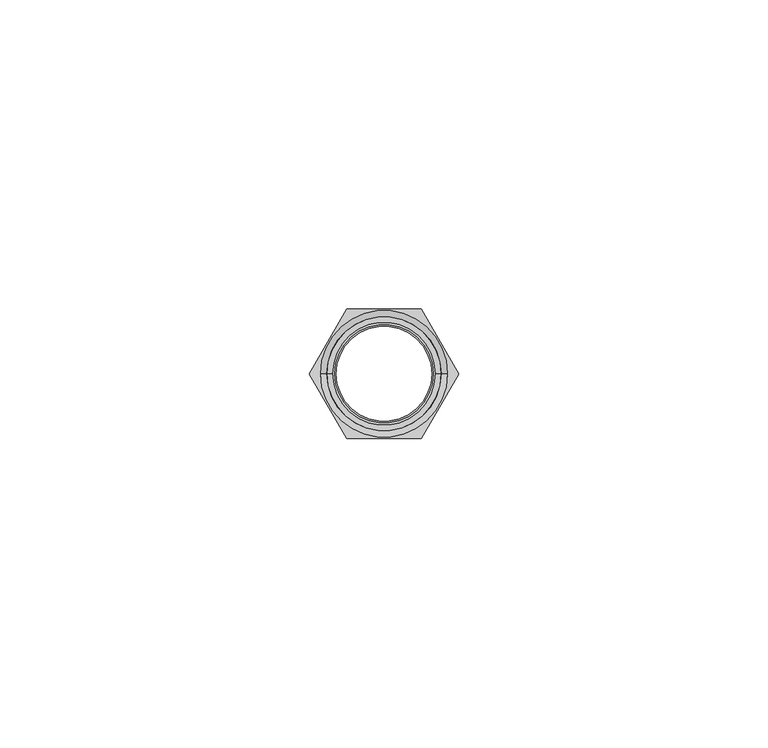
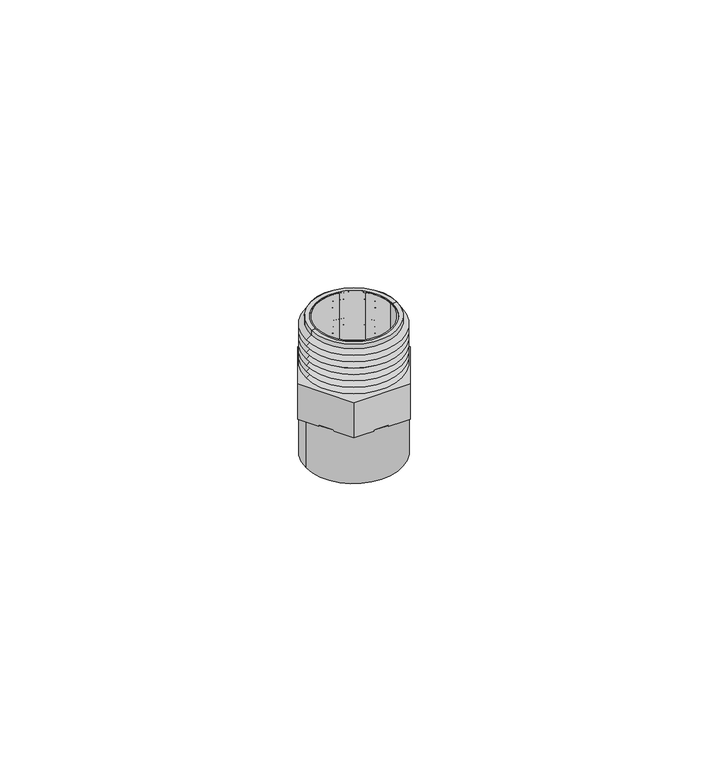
"""IFC4 building model written with IfcOpenShell, lengths in millimetres: valve geometry, Adaptador Macho_Lubrizol_CPVC_FlowGuard_MX 13mm : Adaptador Macho_Lubrizol_CPVC_FlowGuard_MX 13mm."""

import ifcopenshell
import ifcopenshell.guid

model = None  # the IFC model being written
_history = None  # IfcOwnerHistory: only IFC2X3 demands one
_inside = {}  # id of a spatial element -> (the spatial element, [elements in it])
_under = {}  # id of a project, library or spatial element -> (it, [spatial elements below it])
_declared = {}  # id of a project -> (the project, [libraries it declares])
_typed = {}  # id of a type object -> (the type object, [elements of that type])
_made_of = {}  # id of a material, layer set ... -> (it, [elements and type objects made of it])


def new_model(schema):
    """Start an empty IFC model of exactly this schema.

    Asked for "IFC4X3", IfcOpenShell would pick the latest addendum, in which some entities
    have other attributes; the version numbers below select the first issue.
    IFC2X3 requires an IfcOwnerHistory on every rooted entity: one is made here for all.
    """
    global model, _history
    if schema == "IFC4X3":
        model = ifcopenshell.file(schema_version=(4, 3, 0, 0))
    else:
        model = ifcopenshell.file(schema=schema)
    _inside.clear()
    _under.clear()
    _declared.clear()
    _typed.clear()
    _made_of.clear()
    _history = None
    if model.schema == "IFC2X3":
        org = make("IfcOrganization", Name="unknown")
        user = make(
            "IfcPersonAndOrganization",
            ThePerson=make("IfcPerson", FamilyName="unknown"),
            TheOrganization=org,
        )
        app = make(
            "IfcApplication",
            ApplicationDeveloper=org,
            Version="unknown",
            ApplicationFullName="unknown",
            ApplicationIdentifier="unknown",
        )
        _history = make(
            "IfcOwnerHistory",
            OwningUser=user,
            OwningApplication=app,
            ChangeAction="ADDED",
            CreationDate=0,
        )
    return model


def make(cls, **values):
    """One entity of the class cls with the attributes given. An attribute that is None is left unset."""
    return model.create_entity(
        cls, **{name: value for name, value in values.items() if value is not None}
    )


def rooted(cls, **values):
    """An entity with a GlobalId (a new one), such as an element, a storey or a relation."""
    return make(cls, GlobalId=ifcopenshell.guid.new(), OwnerHistory=_history, **values)


def si_unit(unit_type, name, prefix=None):
    """IfcSIUnit, for example si_unit("LENGTHUNIT", "METRE", prefix="MILLI")."""
    return make("IfcSIUnit", UnitType=unit_type, Prefix=prefix, Name=name)


def assignment(units):
    """IfcUnitAssignment: the units of a project."""
    return None if units is None else make("IfcUnitAssignment", Units=units)


def point(xyz):
    """IfcCartesianPoint."""
    return None if xyz is None else make("IfcCartesianPoint", Coordinates=xyz)


def direction(xyz):
    """IfcDirection."""
    return None if xyz is None else make("IfcDirection", DirectionRatios=xyz)


def frame(location, z_axis=None, x_axis=None):
    """IfcAxis2Placement3D, a coordinate frame: its origin and axes. An axis left out is left unset."""
    return make(
        "IfcAxis2Placement3D",
        Location=point(location),
        Axis=direction(z_axis),
        RefDirection=direction(x_axis),
    )


def frame_2d(location, x_axis=None):
    """IfcAxis2Placement2D, a coordinate frame in the plane: its origin and x axis."""
    return make(
        "IfcAxis2Placement2D", Location=point(location), RefDirection=direction(x_axis)
    )


def origin():
    """The frame at (0, 0, 0) with its axes left unset."""
    return frame((0.0, 0.0, 0.0))


def origin_with_axes():
    """The frame at (0, 0, 0) with the z axis (0, 0, 1) and the x axis (1, 0, 0) written out."""
    return frame((0.0, 0.0, 0.0), z_axis=(0.0, 0.0, 1.0), x_axis=(1.0, 0.0, 0.0))


def origin_2d():
    """The frame at (0, 0) in the plane with its x axis left unset."""
    return frame_2d((0.0, 0.0))


def place(relative_to, where):
    """IfcLocalPlacement: puts the frame where relative to a parent placement (None: the world)."""
    return make(
        "IfcLocalPlacement", PlacementRelTo=relative_to, RelativePlacement=where
    )


def context(
    kind, dimensions, precision=None, world=None, true_north=None, identifier=None
):
    """IfcGeometricRepresentationContext, for example the 3D "Model" context."""
    return make(
        "IfcGeometricRepresentationContext",
        ContextIdentifier=identifier,
        ContextType=kind,
        CoordinateSpaceDimension=dimensions,
        Precision=precision,
        WorldCoordinateSystem=world,
        TrueNorth=true_north,
    )


def project(units=None, contexts=None):
    """IfcProject with its units and contexts."""
    return rooted(
        "IfcProject",
        Name="project",
        RepresentationContexts=contexts,
        UnitsInContext=assignment(units),
    )


def spatial(cls, under=None, at=None, **own):
    """A site, building, storey or space (cls), placed at a placement, below another one or the project."""
    s = rooted(cls, ObjectPlacement=at, **own)
    if under is not None:
        _under.setdefault(under.id(), (under, []))[1].append(s)
    return s


def polyline(points):
    """IfcPolyline through the points."""
    return make("IfcPolyline", Points=[point(p) for p in points])


def circle_curve(where, radius):
    """IfcCircle in the frame where."""
    return make("IfcCircle", Position=where, Radius=radius)


def trimmed(basis, trim1, trim2, sense, master):
    """IfcTrimmedCurve: the piece of a basis curve between two trims."""
    return make(
        "IfcTrimmedCurve",
        BasisCurve=basis,
        Trim1=trim1,
        Trim2=trim2,
        SenseAgreement=sense,
        MasterRepresentation=master,
    )


def segment(curve, same_sense, transition):
    """IfcCompositeCurveSegment."""
    return make(
        "IfcCompositeCurveSegment",
        Transition=transition,
        SameSense=same_sense,
        ParentCurve=curve,
    )


def composite_curve(segments, self_intersect=None):
    """IfcCompositeCurve: segments joined end to end."""
    return make("IfcCompositeCurve", Segments=segments, SelfIntersect=self_intersect)


def outline(outer, holes=None, kind="AREA"):
    """IfcArbitraryClosedProfileDef: a profile drawn as a closed curve; with holes, ...WithVoids."""
    if holes is None:
        return make("IfcArbitraryClosedProfileDef", ProfileType=kind, OuterCurve=outer)
    return make(
        "IfcArbitraryProfileDefWithVoids",
        ProfileType=kind,
        OuterCurve=outer,
        InnerCurves=holes,
    )


def extrude(swept, where, along, depth):
    """IfcExtrudedAreaSolid: the profile swept, set in the frame where, extruded along a direction by depth."""
    return make(
        "IfcExtrudedAreaSolid",
        SweptArea=swept,
        Position=where,
        ExtrudedDirection=direction(along),
        Depth=depth,
    )


def shape(context_of_items, identifier, shape_type, items):
    """IfcShapeRepresentation: the items that make up one representation, for example the "Body"."""
    return make(
        "IfcShapeRepresentation",
        ContextOfItems=context_of_items,
        RepresentationIdentifier=identifier,
        RepresentationType=shape_type,
        Items=items,
    )


def source(mapping_origin, context_of_items, identifier, shape_type, items):
    """IfcRepresentationMap: a shape defined once, which mapped items show again and again."""
    return make(
        "IfcRepresentationMap",
        MappingOrigin=mapping_origin,
        MappedRepresentation=shape(context_of_items, identifier, shape_type, items),
    )


def transform(
    local_origin,
    x_axis=None,
    y_axis=None,
    z_axis=None,
    scale=None,
    scale2=None,
    scale3=None,
    uniform=True,
):
    """IfcCartesianTransformationOperator3D, or its non-uniform kind. x_axis, y_axis, z_axis: its Axis1, 2, 3."""
    if uniform:
        return make(
            "IfcCartesianTransformationOperator3D",
            Axis1=direction(x_axis),
            Axis2=direction(y_axis),
            LocalOrigin=point(local_origin),
            Scale=scale,
            Axis3=direction(z_axis),
        )
    return make(
        "IfcCartesianTransformationOperator3DnonUniform",
        Axis1=direction(x_axis),
        Axis2=direction(y_axis),
        LocalOrigin=point(local_origin),
        Scale=scale,
        Axis3=direction(z_axis),
        Scale2=scale2,
        Scale3=scale3,
    )


def mapped(mapping_source, mapping_target):
    """IfcMappedItem: shows the shape of a source again, moved by a transform."""
    return make(
        "IfcMappedItem", MappingSource=mapping_source, MappingTarget=mapping_target
    )


def made_of(thing, what):
    """Note that an element or type object is made of a material, layer set ...; save() writes the relation."""
    if what is not None:
        _made_of.setdefault(what.id(), (what, []))[1].append(thing)
    return thing


def element(
    cls,
    number,
    at=None,
    inside=None,
    cuts=None,
    type_object=None,
    material=None,
    context=None,
    identifier="Body",
    shape_type=None,
    held_by="IfcProductDefinitionShape",
    body=None,
    shapes=None,
    **own,
):
    """One element of the class cls, such as IfcWall. Its Tag is "e" and its number.

    at: its placement. inside: the storey or other place that contains it. cuts: it is an
    opening in that element (IfcRelVoidsElement). A single representation is given by context,
    identifier, shape_type and body (its items); several are given by shapes. held_by: the class
    of the entity that holds the representations. save() writes the other relations.
    """
    e = rooted(cls, Tag="e%d" % number, ObjectPlacement=at, **own)
    if body is not None:
        shapes = [shape(context, identifier, shape_type, body)]
    if shapes is not None:
        e.Representation = make(held_by, Representations=shapes)
    if inside is not None:
        _inside.setdefault(inside.id(), (inside, []))[1].append(e)
    if cuts is not None:
        rooted(
            "IfcRelVoidsElement", RelatingBuildingElement=cuts, RelatedOpeningElement=e
        )
    if type_object is not None:
        _typed.setdefault(type_object.id(), (type_object, []))[1].append(e)
    return made_of(e, material)


def aggregate(whole, parts):
    """IfcRelAggregates: a whole, such as a stair, and the parts it consists of."""
    return rooted("IfcRelAggregates", RelatingObject=whole, RelatedObjects=parts)


def save(model, path):
    """Write the relations noted so far, then the file.

    IfcRelAggregates (storeys below a building ...), IfcRelContainedInSpatialStructure (elements
    in a storey), IfcRelDefinesByType, IfcRelAssociatesMaterial and IfcRelDeclares: one each for
    every whole, place, type object, material and project.
    """
    for whole, parts in _under.values():
        aggregate(whole, parts)
    for where, things in _inside.values():
        rooted(
            "IfcRelContainedInSpatialStructure",
            RelatedElements=things,
            RelatingStructure=where,
        )
    for kind, things in _typed.values():
        rooted("IfcRelDefinesByType", RelatedObjects=things, RelatingType=kind)
    for what, things in _made_of.values():
        rooted("IfcRelAssociatesMaterial", RelatedObjects=things, RelatingMaterial=what)
    for by, libraries in _declared.values():
        rooted("IfcRelDeclares", RelatingContext=by, RelatedDefinitions=libraries)
    model.write(path)


def plane_surface(at):
    """IfcPlane: the flat surface through the origin of the frame at, square to its z axis."""
    return make("IfcPlane", Position=at)


def cylinder_surface(at, radius):
    """IfcCylindricalSurface: all points at the distance radius from the z axis of the frame at."""
    return make("IfcCylindricalSurface", Position=at, Radius=radius)


def revolved_surface(curve, axis_point, axis_direction):
    """IfcSurfaceOfRevolution: the curve turned about the line through axis_point along axis_direction."""
    return make(
        "IfcSurfaceOfRevolution",
        SweptCurve=make("IfcArbitraryOpenProfileDef", ProfileType="CURVE", Curve=curve),
        AxisPosition=make("IfcAxis1Placement", Location=point(axis_point), Axis=direction(axis_direction)),
    )


def advanced_brep(points, edges, surfaces, faces):
    """IfcAdvancedBrep: a solid bounded by faces that lie on surfaces and meet in shared edges.

    An edge is (start, end): straight between two places in points (the first is 0);
    or (start, end, curve); or (start, end, curve, False) where it runs against its curve.
    A face is (place in surfaces, loops), or (place, loops, False) where it looks against
    its surface's normal. A loop lists edges by number (the first is 1), with a minus sign
    where the edge is run from its end to its start. The first loop is the outer one.
    """
    corners = [point(p) for p in points]
    vertices = [make("IfcVertexPoint", VertexGeometry=c) for c in corners]
    made = []
    for start, end, *more in edges:
        made.append(
            make(
                "IfcEdgeCurve",
                EdgeStart=vertices[start],
                EdgeEnd=vertices[end],
                EdgeGeometry=more[0] if more else make("IfcPolyline", Points=[corners[start], corners[end]]),
                SameSense=more[1] if len(more) > 1 else True,
            )
        )
    hull = []
    for where, loops, *sense in faces:
        bounds = []
        for j, loop in enumerate(loops):
            ring = [make("IfcOrientedEdge", EdgeElement=made[abs(k) - 1], Orientation=k > 0) for k in loop]
            bounds.append(
                make(
                    "IfcFaceOuterBound" if j == 0 else "IfcFaceBound",
                    Bound=make("IfcEdgeLoop", EdgeList=ring),
                    Orientation=True,
                )
            )
        hull.append(make("IfcAdvancedFace", Bounds=bounds, FaceSurface=surfaces[where], SameSense=sense[0] if sense else True))
    return make("IfcAdvancedBrep", Outer=make("IfcClosedShell", CfsFaces=hull))


def valve_ad1eddb8(model_context):
    return source(origin(), model_context, "Body", "SolidModel", [
        advanced_brep(
        [(9.1862873, 0.0, 29.8089284), (-9.1862873, 0.0, 29.8089284), (-9.1862873, 0.0, 30.8), (9.1862873, 0.0, 30.8), (10.25, 0.0, 29.0641088), (-10.25, 0.0, 29.0641088), (9.2157757, 0.0, 28.3399371), (-9.2157757, 0.0, 28.3399371), (10.25, 0.0, 27.6157655), (-10.25, 0.0, 27.6157655), (9.2157757, 0.0, 26.8915939), (-9.2157757, 0.0, 26.8915939), (10.25, 0.0, 26.1674223), (-10.25, 0.0, 26.1674223), (9.2157757, 0.0, 25.4432506), (-9.2157757, 0.0, 25.4432506), (10.25, 0.0, 24.719079), (-10.25, 0.0, 24.719079), (9.2157757, 0.0, 23.9949074), (-9.2157757, 0.0, 23.9949074), (10.25, 0.0, 23.2707358), (-10.25, 0.0, 23.2707358), (9.2157757, 0.0, 22.5465641), (-9.2157757, 0.0, 22.5465641), (10.25, 0.0, 21.8223925), (-10.25, 0.0, 21.8223925), (9.2157757, 0.0, 21.0982209), (-9.2157757, 0.0, 21.0982209), (10.25, 0.0, 20.3740493), (-10.25, 0.0, 20.3740493), (9.2157757, 0.0, 19.6498777), (-9.2157757, 0.0, 19.6498777), (8.3354831, 0.0, 19.6498777), (-8.3354831, 0.0, 19.6498777), (-8.3354831, 0.0, 30.8), (8.3354831, 0.0, 30.8)],
        [
            (0, 1, circle_curve(frame((0.0, 0.0, 29.8089284), z_axis=(0.0, 0.0, 1.0), x_axis=(-1.0, 0.0, 0.0)), 9.1862873)),
            (1, 2),
            (2, 3, circle_curve(frame((0.0, 0.0, 30.8), z_axis=(0.0, 0.0, -1.0), x_axis=(-1.0, 0.0, 0.0)), 9.1862873)),
            (3, 0),
            (1, 0, circle_curve(frame((0.0, 0.0, 29.8089284), z_axis=(0.0, 0.0, 1.0), x_axis=(-1.0, 0.0, 0.0)), 9.1862873)),
            (3, 2, circle_curve(frame((0.0, 0.0, 30.8), z_axis=(0.0, 0.0, -1.0), x_axis=(-1.0, 0.0, 0.0)), 9.1862873)),
            (4, 5, circle_curve(frame((0.0, 0.0, 29.0641088), z_axis=(0.0, 0.0, 1.0), x_axis=(-1.0, 0.0, 0.0)), 10.25)),
            (5, 1),
            (0, 4),
            (5, 4, circle_curve(frame((0.0, 0.0, 29.0641088), z_axis=(0.0, 0.0, 1.0), x_axis=(-1.0, 0.0, 0.0)), 10.25)),
            (6, 7, circle_curve(frame((0.0, 0.0, 28.3399371), z_axis=(0.0, 0.0, 1.0), x_axis=(-1.0, 0.0, 0.0)), 9.2157757)),
            (7, 5),
            (4, 6),
            (7, 6, circle_curve(frame((0.0, 0.0, 28.3399371), z_axis=(0.0, 0.0, 1.0), x_axis=(-1.0, 0.0, 0.0)), 9.2157757)),
            (8, 9, circle_curve(frame((0.0, 0.0, 27.6157655), z_axis=(0.0, 0.0, 1.0), x_axis=(-1.0, 0.0, 0.0)), 10.25)),
            (9, 7),
            (6, 8),
            (9, 8, circle_curve(frame((0.0, 0.0, 27.6157655), z_axis=(0.0, 0.0, 1.0), x_axis=(-1.0, 0.0, 0.0)), 10.25)),
            (10, 11, circle_curve(frame((0.0, 0.0, 26.8915939), z_axis=(0.0, 0.0, 1.0), x_axis=(-1.0, 0.0, 0.0)), 9.2157757)),
            (11, 9),
            (8, 10),
            (11, 10, circle_curve(frame((0.0, 0.0, 26.8915939), z_axis=(0.0, 0.0, 1.0), x_axis=(-1.0, 0.0, 0.0)), 9.2157757)),
            (12, 13, circle_curve(frame((0.0, 0.0, 26.1674223), z_axis=(0.0, 0.0, 1.0), x_axis=(-1.0, 0.0, 0.0)), 10.25)),
            (13, 11),
            (10, 12),
            (13, 12, circle_curve(frame((0.0, 0.0, 26.1674223), z_axis=(0.0, 0.0, 1.0), x_axis=(-1.0, 0.0, 0.0)), 10.25)),
            (14, 15, circle_curve(frame((0.0, 0.0, 25.4432506), z_axis=(0.0, 0.0, 1.0), x_axis=(-1.0, 0.0, 0.0)), 9.2157757)),
            (15, 13),
            (12, 14),
            (15, 14, circle_curve(frame((0.0, 0.0, 25.4432506), z_axis=(0.0, 0.0, 1.0), x_axis=(-1.0, 0.0, 0.0)), 9.2157757)),
            (16, 17, circle_curve(frame((0.0, 0.0, 24.719079), z_axis=(0.0, 0.0, 1.0), x_axis=(-1.0, 0.0, 0.0)), 10.25)),
            (17, 15),
            (14, 16),
            (17, 16, circle_curve(frame((0.0, 0.0, 24.719079), z_axis=(0.0, 0.0, 1.0), x_axis=(-1.0, 0.0, 0.0)), 10.25)),
            (18, 19, circle_curve(frame((0.0, 0.0, 23.9949074), z_axis=(0.0, 0.0, 1.0), x_axis=(-1.0, 0.0, 0.0)), 9.2157757)),
            (19, 17),
            (16, 18),
            (19, 18, circle_curve(frame((0.0, 0.0, 23.9949074), z_axis=(0.0, 0.0, 1.0), x_axis=(-1.0, 0.0, 0.0)), 9.2157757)),
            (20, 21, circle_curve(frame((0.0, 0.0, 23.2707358), z_axis=(0.0, 0.0, 1.0), x_axis=(-1.0, 0.0, 0.0)), 10.25)),
            (21, 19),
            (18, 20),
            (21, 20, circle_curve(frame((0.0, 0.0, 23.2707358), z_axis=(0.0, 0.0, 1.0), x_axis=(-1.0, 0.0, 0.0)), 10.25)),
            (22, 23, circle_curve(frame((0.0, 0.0, 22.5465641), z_axis=(0.0, 0.0, 1.0), x_axis=(-1.0, 0.0, 0.0)), 9.2157757)),
            (23, 21),
            (20, 22),
            (23, 22, circle_curve(frame((0.0, 0.0, 22.5465641), z_axis=(0.0, 0.0, 1.0), x_axis=(-1.0, 0.0, 0.0)), 9.2157757)),
            (24, 25, circle_curve(frame((0.0, 0.0, 21.8223925), z_axis=(0.0, 0.0, 1.0), x_axis=(-1.0, 0.0, 0.0)), 10.25)),
            (25, 23),
            (22, 24),
            (25, 24, circle_curve(frame((0.0, 0.0, 21.8223925), z_axis=(0.0, 0.0, 1.0), x_axis=(-1.0, 0.0, 0.0)), 10.25)),
            (26, 27, circle_curve(frame((0.0, 0.0, 21.0982209), z_axis=(0.0, 0.0, 1.0), x_axis=(-1.0, 0.0, 0.0)), 9.2157757)),
            (27, 25),
            (24, 26),
            (27, 26, circle_curve(frame((0.0, 0.0, 21.0982209), z_axis=(0.0, 0.0, 1.0), x_axis=(-1.0, 0.0, 0.0)), 9.2157757)),
            (28, 29, circle_curve(frame((0.0, 0.0, 20.3740493), z_axis=(0.0, 0.0, 1.0), x_axis=(-1.0, 0.0, 0.0)), 10.25)),
            (29, 27),
            (26, 28),
            (29, 28, circle_curve(frame((0.0, 0.0, 20.3740493), z_axis=(0.0, 0.0, 1.0), x_axis=(-1.0, 0.0, 0.0)), 10.25)),
            (30, 31, circle_curve(frame((0.0, 0.0, 19.6498777), z_axis=(0.0, 0.0, 1.0), x_axis=(-1.0, 0.0, 0.0)), 9.2157757)),
            (31, 29),
            (28, 30),
            (31, 30, circle_curve(frame((0.0, 0.0, 19.6498777), z_axis=(0.0, 0.0, 1.0), x_axis=(-1.0, 0.0, 0.0)), 9.2157757)),
            (32, 33, circle_curve(frame((0.0, 0.0, 19.6498777), z_axis=(0.0, 0.0, 1.0), x_axis=(-1.0, 0.0, 0.0)), 8.3354831)),
            (33, 31),
            (30, 32),
            (33, 32, circle_curve(frame((0.0, 0.0, 19.6498777), z_axis=(0.0, 0.0, 1.0), x_axis=(-1.0, 0.0, 0.0)), 8.3354831)),
            (2, 34),
            (34, 35, circle_curve(frame((0.0, 0.0, 30.8), z_axis=(0.0, 0.0, -1.0), x_axis=(-1.0, 0.0, 0.0)), 8.3354831)),
            (35, 3),
            (35, 34, circle_curve(frame((0.0, 0.0, 30.8), z_axis=(0.0, 0.0, -1.0), x_axis=(-1.0, 0.0, 0.0)), 8.3354831)),
            (34, 33),
            (32, 35),
        ],
        [
            cylinder_surface(frame((0.0, 0.0, 32.7589883), z_axis=(0.0, 0.0, -1.0), x_axis=(-1.0, 0.0, 0.0)), 9.1862873),
            revolved_surface(polyline([(-9.1862873, 0.0, 29.8089284), (-10.25, 0.0, 29.0641088)]), (0.0, 0.0, 32.7589883), (0.0, 0.0, -1.0)),
            revolved_surface(polyline([(-10.25, 0.0, 29.0641088), (-9.2157757, 0.0, 28.3399371)]), (0.0, 0.0, 32.7589883), (0.0, 0.0, -1.0)),
            revolved_surface(polyline([(-9.2157757, 0.0, 28.3399371), (-10.25, 0.0, 27.6157655)]), (0.0, 0.0, 32.7589883), (0.0, 0.0, -1.0)),
            revolved_surface(polyline([(-10.25, 0.0, 27.6157655), (-9.2157757, 0.0, 26.8915939)]), (0.0, 0.0, 32.7589883), (0.0, 0.0, -1.0)),
            revolved_surface(polyline([(-9.2157757, 0.0, 26.8915939), (-10.25, 0.0, 26.1674223)]), (0.0, 0.0, 32.7589883), (0.0, 0.0, -1.0)),
            revolved_surface(polyline([(-10.25, 0.0, 26.1674223), (-9.2157757, 0.0, 25.4432506)]), (0.0, 0.0, 32.7589883), (0.0, 0.0, -1.0)),
            revolved_surface(polyline([(-9.2157757, 0.0, 25.4432506), (-10.25, 0.0, 24.719079)]), (0.0, 0.0, 32.7589883), (0.0, 0.0, -1.0)),
            revolved_surface(polyline([(-10.25, 0.0, 24.719079), (-9.2157757, 0.0, 23.9949074)]), (0.0, 0.0, 32.7589883), (0.0, 0.0, -1.0)),
            revolved_surface(polyline([(-9.2157757, 0.0, 23.9949074), (-10.25, 0.0, 23.2707358)]), (0.0, 0.0, 32.7589883), (0.0, 0.0, -1.0)),
            revolved_surface(polyline([(-10.25, 0.0, 23.2707358), (-9.2157757, 0.0, 22.5465641)]), (0.0, 0.0, 32.7589883), (0.0, 0.0, -1.0)),
            revolved_surface(polyline([(-9.2157757, 0.0, 22.5465641), (-10.25, 0.0, 21.8223925)]), (0.0, 0.0, 32.7589883), (0.0, 0.0, -1.0)),
            revolved_surface(polyline([(-10.25, 0.0, 21.8223925), (-9.2157757, 0.0, 21.0982209)]), (0.0, 0.0, 32.7589883), (0.0, 0.0, -1.0)),
            revolved_surface(polyline([(-9.2157757, 0.0, 21.0982209), (-10.25, 0.0, 20.3740493)]), (0.0, 0.0, 32.7589883), (0.0, 0.0, -1.0)),
            revolved_surface(polyline([(-10.25, 0.0, 20.3740493), (-9.2157757, 0.0, 19.6498777)]), (0.0, 0.0, 32.7589883), (0.0, 0.0, -1.0)),
            plane_surface(frame((0.0, 0.0, 19.6498777), z_axis=(0.0, 0.0, -1.0), x_axis=(-1.0, 0.0, 0.0))),
            plane_surface(frame((0.0, 0.0, 30.8), z_axis=(0.0, 0.0, 1.0), x_axis=(-1.0, 0.0, 0.0))),
            revolved_surface(polyline([(-8.3354831, 0.0, 19.6498777), (-8.3354831, 0.0, 30.8)]), (0.0, 0.0, 32.7589883), (0.0, 0.0, -1.0)),
        ],
        [
            (0, [[1, 2, 3, 4]]),
            (0, [[5, -4, 6, -2]]),
            (1, [[7, 8, -1, 9]]),
            (1, [[10, -9, -5, -8]]),
            (2, [[11, 12, -7, 13]]),
            (2, [[14, -13, -10, -12]]),
            (3, [[15, 16, -11, 17]]),
            (3, [[18, -17, -14, -16]]),
            (4, [[19, 20, -15, 21]]),
            (4, [[22, -21, -18, -20]]),
            (5, [[23, 24, -19, 25]]),
            (5, [[26, -25, -22, -24]]),
            (6, [[27, 28, -23, 29]]),
            (6, [[30, -29, -26, -28]]),
            (7, [[31, 32, -27, 33]]),
            (7, [[34, -33, -30, -32]]),
            (8, [[35, 36, -31, 37]]),
            (8, [[38, -37, -34, -36]]),
            (9, [[39, 40, -35, 41]]),
            (9, [[42, -41, -38, -40]]),
            (10, [[43, 44, -39, 45]]),
            (10, [[46, -45, -42, -44]]),
            (11, [[47, 48, -43, 49]]),
            (11, [[50, -49, -46, -48]]),
            (12, [[51, 52, -47, 53]]),
            (12, [[54, -53, -50, -52]]),
            (13, [[55, 56, -51, 57]]),
            (13, [[58, -57, -54, -56]]),
            (14, [[59, 60, -55, 61]]),
            (14, [[62, -61, -58, -60]]),
            (15, [[63, 64, -59, 65]]),
            (15, [[66, -65, -62, -64]]),
            (16, [[-3, 67, 68, 69]]),
            (16, [[-6, -69, 70, -67]]),
            (17, [[-68, 71, -63, 72]]),
            (17, [[-70, -72, -66, -71]]),
        ],
    ),
        extrude(outline(composite_curve([segment(trimmed(circle_curve(origin_2d(), 10.25), [point((-10.25, 0.0))], [point((10.25, 0.0))], False, "CARTESIAN"), True, "CONTINUOUS"), segment(trimmed(circle_curve(origin_2d(), 10.25), [point((10.25, 0.0))], [point((-10.25, 0.0))], False, "CARTESIAN"), True, "CONTINUOUS")], self_intersect=False), holes=[composite_curve([segment(trimmed(circle_curve(origin_2d(), 7.95), [point((-7.95, 0.0))], [point((7.95, 0.0))], True, "CARTESIAN"), True, "CONTINUOUS"), segment(trimmed(circle_curve(origin_2d(), 7.95), [point((7.95, 0.0))], [point((-7.95, 0.0))], True, "CARTESIAN"), True, "CONTINUOUS")], self_intersect=False)]), origin_with_axes(), (0.0, 0.0, 1.0), 11.6498777),
        extrude(outline(polyline([(6.0370299, 10.4564425), (12.0740598, 0.0), (6.0370299, -10.4564425), (-6.0370299, -10.4564425), (-12.0740598, 0.0), (-6.0370299, 10.4564425), (6.0370299, 10.4564425)]), holes=[composite_curve([segment(trimmed(circle_curve(origin_2d(), 7.695932), [point((-7.695932, 0.0))], [point((7.695932, 0.0))], True, "CARTESIAN"), True, "CONTINUOUS"), segment(trimmed(circle_curve(origin_2d(), 7.695932), [point((7.695932, 0.0))], [point((-7.695932, 0.0))], True, "CARTESIAN"), True, "CONTINUOUS")], self_intersect=False)]), frame((0.0, 0.0, 11.6498777), z_axis=(0.0, 0.0, 1.0), x_axis=(1.0, 0.0, 0.0)), (0.0, 0.0, 1.0), 8.0),
        extrude(outline(composite_curve([segment(trimmed(circle_curve(origin_2d(), 9.2157757), [point((-9.2157757, 0.0))], [point((9.2157757, 0.0))], False, "CARTESIAN"), True, "CONTINUOUS"), segment(trimmed(circle_curve(origin_2d(), 9.2157757), [point((9.2157757, 0.0))], [point((-9.2157757, 0.0))], False, "CARTESIAN"), True, "CONTINUOUS")], self_intersect=False), holes=[composite_curve([segment(trimmed(circle_curve(origin_2d(), 7.95), [point((-7.95, 0.0))], [point((7.95, 0.0))], True, "CARTESIAN"), True, "CONTINUOUS"), segment(trimmed(circle_curve(origin_2d(), 7.95), [point((7.95, 0.0))], [point((-7.95, 0.0))], True, "CARTESIAN"), True, "CONTINUOUS")], self_intersect=False)]), frame((0.0, 0.0, 19.6498777), z_axis=(0.0, 0.0, 1.0), x_axis=(1.0, 0.0, 0.0)), (0.0, 0.0, 1.0), 11.1501223),
    ])


if __name__ == "__main__":
    model = new_model("IFC4")
    model_context = context("Model", 3, world=origin())
    ifc_project = project(units=[si_unit("LENGTHUNIT", "METRE", prefix="MILLI")], contexts=[model_context])
    site = spatial("IfcSite", under=ifc_project)
    building = spatial("IfcBuilding", under=site)
    placement = place(None, origin())
    valve_shape = valve_ad1eddb8(model_context)
    element("IfcValve", 1, ObjectType="Adaptador Macho_Lubrizol_CPVC_FlowGuard_MX 13mm : Adaptador Macho_Lubrizol_CPVC_FlowGuard_MX 13mm", at=placement, inside=building, context=model_context, shape_type="MappedRepresentation", body=[
        mapped(valve_shape, transform((0.0, 0.0, 0.0), x_axis=(1.0, 0.0, 0.0), y_axis=(0.0, 1.0, 0.0), z_axis=(0.0, 0.0, 1.0))),
    ])
    save(model, "model.ifc")
